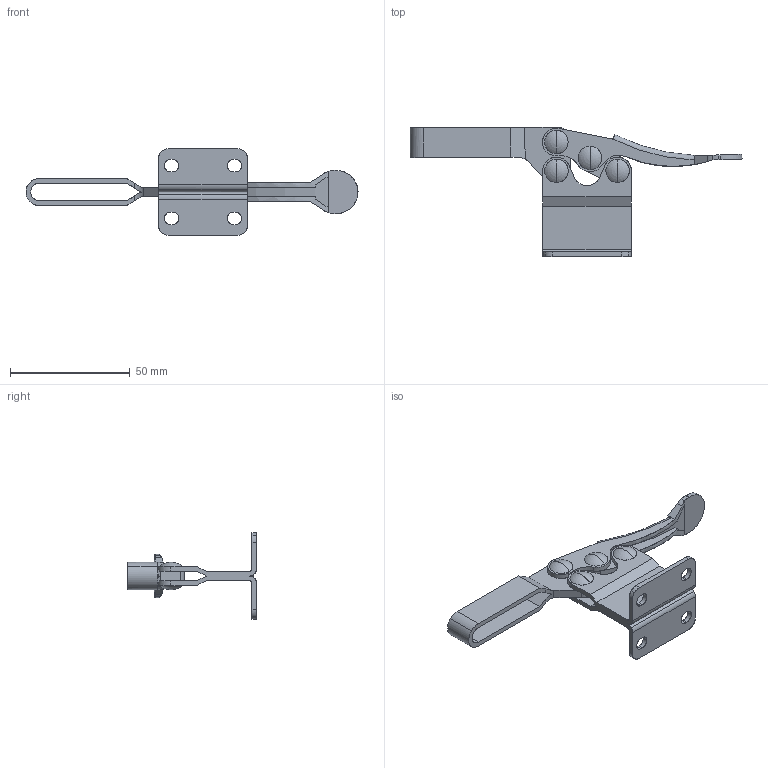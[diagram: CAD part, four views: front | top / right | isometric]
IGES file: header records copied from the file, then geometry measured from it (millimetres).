
Start section: Comment
Global section: file name: 201bhb.igs; native system:  By Spatial Corp.; preprocessor: XPlus PS/IGES 3.0; author: Author; organization: Title; date: 20050217.080211; units: inch
Bounding box: 138.38 x 53.9 x 36 mm (x, y, z)
Surface area: 17054.2 mm2 (no closed solid volume)
Topology: 0 solids, 0 shells, 194 faces, 1082 edges, 1062 vertices
Faces by surface type: revolution 117, extrusion 77
